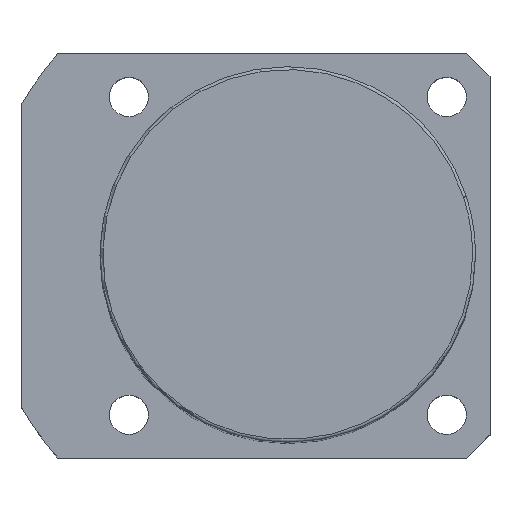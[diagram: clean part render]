
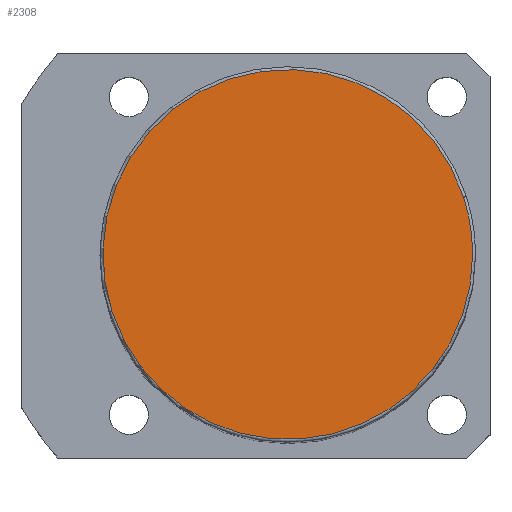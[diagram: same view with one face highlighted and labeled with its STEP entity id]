
A CAD part, top view. The second image highlights one B-rep face of the part: STEP entity #2308.
In plain terms, the highlighted planar face has unit normal (0, 0, 1).
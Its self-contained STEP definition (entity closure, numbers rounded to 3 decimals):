
#2241=CARTESIAN_POINT('',(30.434,9.889,151.0));
#2242=VERTEX_POINT('',#2241);
#2260=CARTESIAN_POINT('',(-30.434,-9.889,151.0));
#2261=VERTEX_POINT('',#2260);
#2269=CARTESIAN_POINT('',(0.0,0.0,151.0));
#2270=DIRECTION('',(0.0,0.0,1.0));
#2271=DIRECTION('',(1.0,0.0,0.0));
#2272=AXIS2_PLACEMENT_3D('',#2269,#2270,#2271);
#2273=CIRCLE('',#2272,32.0);
#2274=EDGE_CURVE('no 2157',#2242,#2261,#2273,.T.);
#2284=CARTESIAN_POINT('',(32.0,0.0,151.0));
#2285=VERTEX_POINT('',#2284);
#2286=CARTESIAN_POINT('',(0.0,0.0,151.0));
#2287=DIRECTION('',(0.0,0.0,1.0));
#2288=DIRECTION('',(1.0,0.0,0.0));
#2289=AXIS2_PLACEMENT_3D('',#2286,#2287,#2288);
#2290=CIRCLE('',#2289,32.0);
#2291=EDGE_CURVE('no 2166',#2285,#2242,#2290,.T.);
#2292=ORIENTED_EDGE('',*,*,#2291,.T.);
#2293=ORIENTED_EDGE('',*,*,#2274,.T.);
#2294=CARTESIAN_POINT('',(0.0,0.0,151.0));
#2295=DIRECTION('',(0.0,0.0,1.0));
#2296=DIRECTION('',(1.0,0.0,0.0));
#2297=AXIS2_PLACEMENT_3D('',#2294,#2295,#2296);
#2298=CIRCLE('',#2297,32.0);
#2299=EDGE_CURVE('no 2172',#2261,#2285,#2298,.T.);
#2300=ORIENTED_EDGE('',*,*,#2299,.T.);
#2301=EDGE_LOOP('',(#2292,#2293,#2300));
#2302=FACE_OUTER_BOUND('',#2301,.T.);
#2303=CARTESIAN_POINT('',(0.0,0.0,151.0));
#2304=DIRECTION('',(0.0,0.0,1.0));
#2305=DIRECTION('',(1.0,0.0,0.0));
#2306=AXIS2_PLACEMENT_3D('',#2303,#2304,#2305);
#2307=PLANE('',#2306);
#2308=ADVANCED_FACE('no 2159',(#2302),#2307,.T.);
